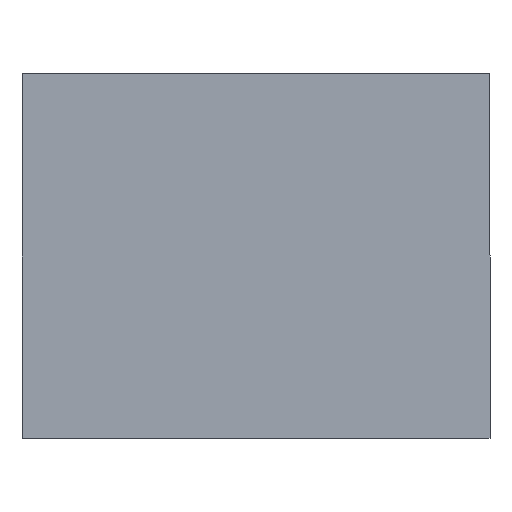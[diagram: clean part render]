
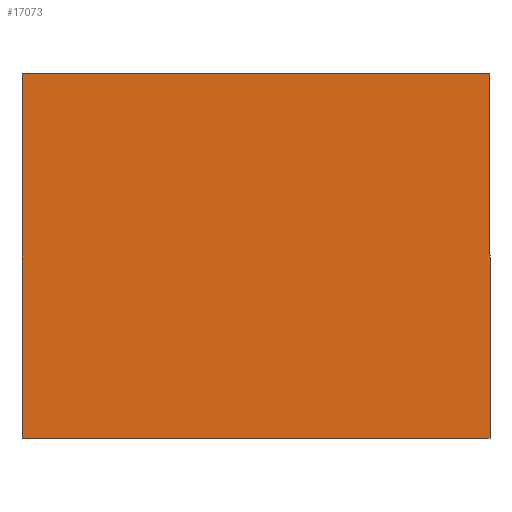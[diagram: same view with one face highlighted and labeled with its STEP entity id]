
A CAD part, front view. The second image highlights one B-rep face of the part: STEP entity #17073.
In plain terms, the highlighted planar face has unit normal (0, -1, 0).
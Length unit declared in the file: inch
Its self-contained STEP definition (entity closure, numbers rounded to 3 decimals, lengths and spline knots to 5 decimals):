
#341 = VERTEX_POINT ( 'NONE', #9539 ) ;
#886 = LINE ( 'NONE', #26530, #26616 ) ;
#922 = EDGE_LOOP ( 'NONE', ( #13891, #28035, #17468, #23477 ) ) ;
#2814 = VECTOR ( 'NONE', #15418, 39.37008 ) ;
#5114 = EDGE_CURVE ( 'NONE', #341, #13861, #886, .T. ) ;
#5287 = CARTESIAN_POINT ( 'NONE',  ( -12.03395, -10.915, -9.32249 ) ) ;
#5495 = EDGE_CURVE ( 'NONE', #28182, #341, #23488, .T. ) ;
#6138 = CARTESIAN_POINT ( 'NONE',  ( -12.03395, -10.915, 9.42145 ) ) ;
#7896 = DIRECTION ( 'NONE',  ( 0., 0., 1. ) ) ;
#7988 = VECTOR ( 'NONE', #7896, 39.37008 ) ;
#9539 = CARTESIAN_POINT ( 'NONE',  ( 12.03395, -10.915, -9.32249 ) ) ;
#11163 = PLANE ( 'NONE',  #12581 ) ;
#11769 = DIRECTION ( 'NONE',  ( -1., 0., 0. ) ) ;
#12581 = AXIS2_PLACEMENT_3D ( 'NONE', #23544, #13685, #31021 ) ;
#13685 = DIRECTION ( 'NONE',  ( 0., 1., 0. ) ) ;
#13830 = CARTESIAN_POINT ( 'NONE',  ( -12.03395, -10.915, 9.42145 ) ) ;
#13861 = VERTEX_POINT ( 'NONE', #30460 ) ;
#13891 = ORIENTED_EDGE ( 'NONE', *, *, #31211, .F. ) ;
#14311 = EDGE_CURVE ( 'NONE', #29712, #28182, #23280, .T. ) ;
#15418 = DIRECTION ( 'NONE',  ( 0., 0., -1. ) ) ;
#15899 = VECTOR ( 'NONE', #23801, 39.37008 ) ;
#17073 = ADVANCED_FACE ( 'NONE', ( #19691 ), #11163, .F. ) ;
#17468 = ORIENTED_EDGE ( 'NONE', *, *, #5495, .F. ) ;
#19691 = FACE_OUTER_BOUND ( 'NONE', #922, .T. ) ;
#21286 = LINE ( 'NONE', #5287, #7988 ) ;
#23018 = CARTESIAN_POINT ( 'NONE',  ( 12.03395, -10.915, 9.42145 ) ) ;
#23280 = LINE ( 'NONE', #6138, #15899 ) ;
#23477 = ORIENTED_EDGE ( 'NONE', *, *, #14311, .F. ) ;
#23488 = LINE ( 'NONE', #23018, #2814 ) ;
#23544 = CARTESIAN_POINT ( 'NONE',  ( 0., -10.915, 0. ) ) ;
#23801 = DIRECTION ( 'NONE',  ( 1., 0., 0. ) ) ;
#26530 = CARTESIAN_POINT ( 'NONE',  ( 12.03395, -10.915, -9.32249 ) ) ;
#26616 = VECTOR ( 'NONE', #11769, 39.37008 ) ;
#28035 = ORIENTED_EDGE ( 'NONE', *, *, #5114, .F. ) ;
#28182 = VERTEX_POINT ( 'NONE', #30187 ) ;
#29712 = VERTEX_POINT ( 'NONE', #13830 ) ;
#30187 = CARTESIAN_POINT ( 'NONE',  ( 12.03395, -10.915, 9.42145 ) ) ;
#30460 = CARTESIAN_POINT ( 'NONE',  ( -12.03395, -10.915, -9.32249 ) ) ;
#31021 = DIRECTION ( 'NONE',  ( 0., 0., 1. ) ) ;
#31211 = EDGE_CURVE ( 'NONE', #13861, #29712, #21286, .T. ) ;
